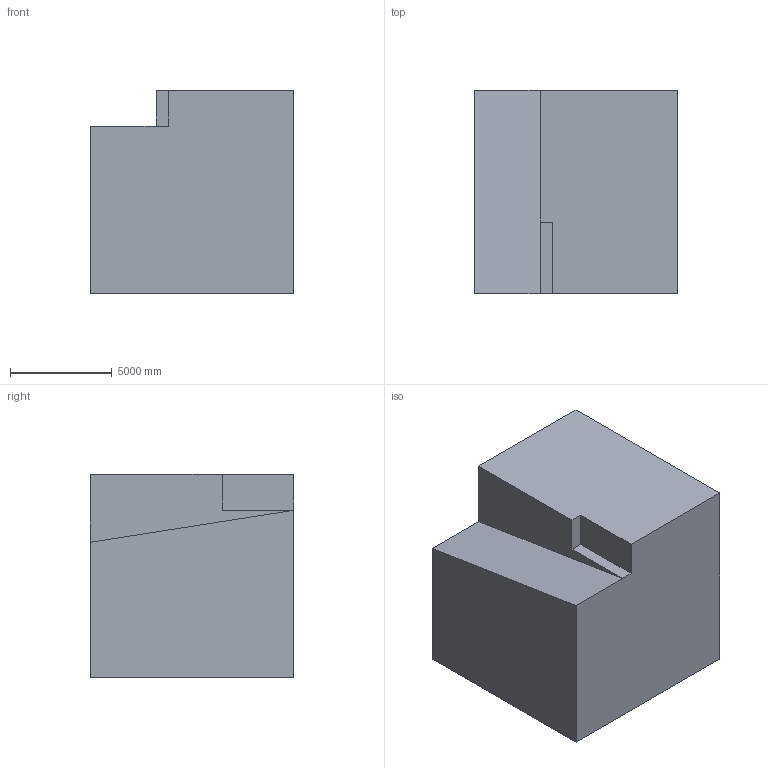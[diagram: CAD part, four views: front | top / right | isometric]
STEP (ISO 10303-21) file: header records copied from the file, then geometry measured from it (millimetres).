
FILE_DESCRIPTION (( 'STEP AP203' ), '1' );
FILE_NAME ('1152.STEP', '2022-08-18T12:57:58', ( 'user' ), ( '' ), 'SwSTEP 2.0', 'SolidWorks 2021', '' );
FILE_SCHEMA (( 'CONFIG_CONTROL_DESIGN' ));
Length unit declared in the file: centimetre
Products named in the file (1): 1152
Bounding box: 10000 x 10000 x 10000 mm (x, y, z)
Volume: 913603480264.4 mm3; surface area: 583857938.4 mm2
Topology: 1 solids, 1 shells, 11 faces, 27 edges, 18 vertices
Faces by surface type: plane 11
Entity records: 398 total; most frequent: CARTESIAN_POINT 57, ORIENTED_EDGE 54, DIRECTION 51, VECTOR 27, EDGE_CURVE 27, LINE 27, VERTEX_POINT 18, AXIS2_PLACEMENT_3D 12
